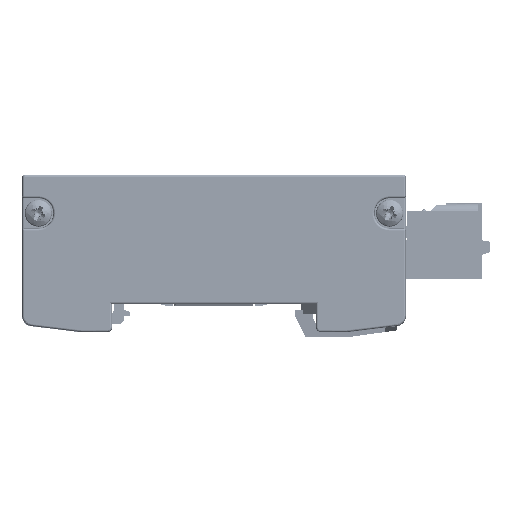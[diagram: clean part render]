
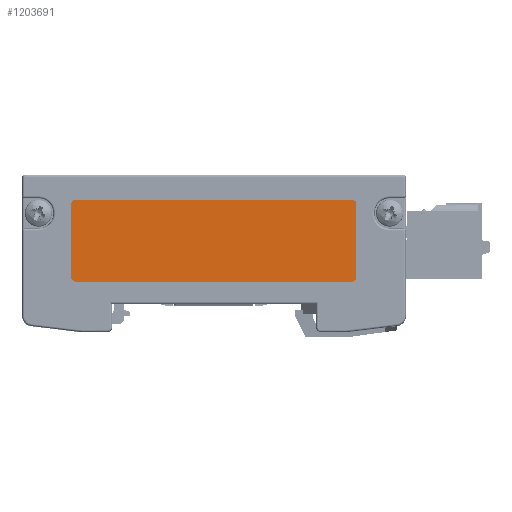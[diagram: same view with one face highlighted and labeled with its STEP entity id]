
A CAD part, left-side view. The second image highlights one B-rep face of the part: STEP entity #1203691.
In plain terms, the highlighted planar face has unit normal (-1, 0, 0).
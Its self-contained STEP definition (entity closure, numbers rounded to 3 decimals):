
#55641 = EDGE_CURVE ( 'NONE', #607116, #1177452, #395495, .T. ) ;
#79172 = CARTESIAN_POINT ( 'NONE',  ( -47.131, -14.751, 9.124 ) ) ;
#96803 = ORIENTED_EDGE ( 'NONE', *, *, #895524, .T. ) ;
#101901 = CARTESIAN_POINT ( 'NONE',  ( -47.131, -15.501, 9.874 ) ) ;
#111203 = CARTESIAN_POINT ( 'NONE',  ( -47.131, 40.499, 9.124 ) ) ;
#147910 = CIRCLE ( 'NONE', #714799, 0.75 ) ;
#153544 = CARTESIAN_POINT ( 'NONE',  ( -47.131, -14.751, -5.376 ) ) ;
#158461 = DIRECTION ( 'NONE',  ( 0., 0., -1. ) ) ;
#169963 = ORIENTED_EDGE ( 'NONE', *, *, #1012415, .T. ) ;
#181999 = CARTESIAN_POINT ( 'NONE',  ( -47.131, -15.501, -5.376 ) ) ;
#184998 = VERTEX_POINT ( 'NONE', #563704 ) ;
#226786 = AXIS2_PLACEMENT_3D ( 'NONE', #313041, #692734, #686730 ) ;
#243713 = LINE ( 'NONE', #858591, #1051165 ) ;
#251473 = DIRECTION ( 'NONE',  ( 0., 0., -1. ) ) ;
#254000 = EDGE_CURVE ( 'NONE', #837160, #1108994, #440699, .T. ) ;
#264889 = CARTESIAN_POINT ( 'NONE',  ( -47.131, 39.749, 9.874 ) ) ;
#279181 = DIRECTION ( 'NONE',  ( 0., 0., -1. ) ) ;
#301091 = AXIS2_PLACEMENT_3D ( 'NONE', #153544, #637272, #251473 ) ;
#313041 = CARTESIAN_POINT ( 'NONE',  ( -47.131, 39.749, 9.124 ) ) ;
#317712 = AXIS2_PLACEMENT_3D ( 'NONE', #795888, #893844, #158461 ) ;
#321249 = CIRCLE ( 'NONE', #301091, 0.75 ) ;
#335044 = CARTESIAN_POINT ( 'NONE',  ( -47.131, -14.751, 9.874 ) ) ;
#348886 = DIRECTION ( 'NONE',  ( -1., 0., 0. ) ) ;
#367031 = ORIENTED_EDGE ( 'NONE', *, *, #595718, .T. ) ;
#382265 = VERTEX_POINT ( 'NONE', #181999 ) ;
#395495 = LINE ( 'NONE', #101901, #487818 ) ;
#405404 = ORIENTED_EDGE ( 'NONE', *, *, #982136, .T. ) ;
#429041 = EDGE_CURVE ( 'NONE', #382265, #488853, #243713, .T. ) ;
#439664 = ORIENTED_EDGE ( 'NONE', *, *, #483351, .T. ) ;
#440699 = LINE ( 'NONE', #1083677, #779828 ) ;
#444055 = CIRCLE ( 'NONE', #1050584, 0.75 ) ;
#469118 = CARTESIAN_POINT ( 'NONE',  ( -47.131, 39.749, -5.376 ) ) ;
#483351 = EDGE_CURVE ( 'NONE', #1177452, #837160, #1145447, .T. ) ;
#487818 = VECTOR ( 'NONE', #1044688, 1000. ) ;
#488853 = VERTEX_POINT ( 'NONE', #808170 ) ;
#492089 = ORIENTED_EDGE ( 'NONE', *, *, #55641, .T. ) ;
#519954 = PLANE ( 'NONE',  #317712 ) ;
#529092 = CARTESIAN_POINT ( 'NONE',  ( -47.131, 39.749, -6.126 ) ) ;
#563704 = CARTESIAN_POINT ( 'NONE',  ( -47.131, -14.751, -6.126 ) ) ;
#595718 = EDGE_CURVE ( 'NONE', #1108994, #869902, #444055, .T. ) ;
#607116 = VERTEX_POINT ( 'NONE', #335044 ) ;
#632370 = ORIENTED_EDGE ( 'NONE', *, *, #429041, .T. ) ;
#637272 = DIRECTION ( 'NONE',  ( -1., 0., 0. ) ) ;
#670927 = DIRECTION ( 'NONE',  ( -1., 0., 0. ) ) ;
#686730 = DIRECTION ( 'NONE',  ( 0., 0., -1. ) ) ;
#692734 = DIRECTION ( 'NONE',  ( -1., 0., 0. ) ) ;
#714799 = AXIS2_PLACEMENT_3D ( 'NONE', #79172, #348886, #1004071 ) ;
#766371 = VECTOR ( 'NONE', #947593, 1000. ) ;
#779828 = VECTOR ( 'NONE', #1009880, 1000. ) ;
#795888 = CARTESIAN_POINT ( 'NONE',  ( -47.131, 12.499, 14.874 ) ) ;
#808170 = CARTESIAN_POINT ( 'NONE',  ( -47.131, -15.501, 9.124 ) ) ;
#837160 = VERTEX_POINT ( 'NONE', #111203 ) ;
#855899 = LINE ( 'NONE', #1155298, #766371 ) ;
#858591 = CARTESIAN_POINT ( 'NONE',  ( -47.131, -15.501, -6.126 ) ) ;
#869902 = VERTEX_POINT ( 'NONE', #529092 ) ;
#893844 = DIRECTION ( 'NONE',  ( -1., 0., 0. ) ) ;
#895524 = EDGE_CURVE ( 'NONE', #488853, #607116, #147910, .T. ) ;
#944409 = EDGE_LOOP ( 'NONE', ( #169963, #405404, #632370, #96803, #492089, #439664, #1060261, #367031 ) ) ;
#947593 = DIRECTION ( 'NONE',  ( 0., -1., 0. ) ) ;
#982136 = EDGE_CURVE ( 'NONE', #184998, #382265, #321249, .T. ) ;
#999017 = CARTESIAN_POINT ( 'NONE',  ( -47.131, 40.499, -5.376 ) ) ;
#1004071 = DIRECTION ( 'NONE',  ( 0., 0., -1. ) ) ;
#1009880 = DIRECTION ( 'NONE',  ( 0., 0., -1. ) ) ;
#1012415 = EDGE_CURVE ( 'NONE', #869902, #184998, #855899, .T. ) ;
#1044688 = DIRECTION ( 'NONE',  ( 0., 1., 0. ) ) ;
#1050584 = AXIS2_PLACEMENT_3D ( 'NONE', #469118, #670927, #279181 ) ;
#1051165 = VECTOR ( 'NONE', #1162484, 1000. ) ;
#1060261 = ORIENTED_EDGE ( 'NONE', *, *, #254000, .T. ) ;
#1083677 = CARTESIAN_POINT ( 'NONE',  ( -47.131, 40.499, 9.874 ) ) ;
#1108994 = VERTEX_POINT ( 'NONE', #999017 ) ;
#1145447 = CIRCLE ( 'NONE', #226786, 0.75 ) ;
#1155298 = CARTESIAN_POINT ( 'NONE',  ( -47.131, 40.499, -6.126 ) ) ;
#1162484 = DIRECTION ( 'NONE',  ( 0., 0., 1. ) ) ;
#1177452 = VERTEX_POINT ( 'NONE', #264889 ) ;
#1181152 = FACE_OUTER_BOUND ( 'NONE', #944409, .T. ) ;
#1203691 = ADVANCED_FACE ( 'NONE', ( #1181152 ), #519954, .T. ) ;
